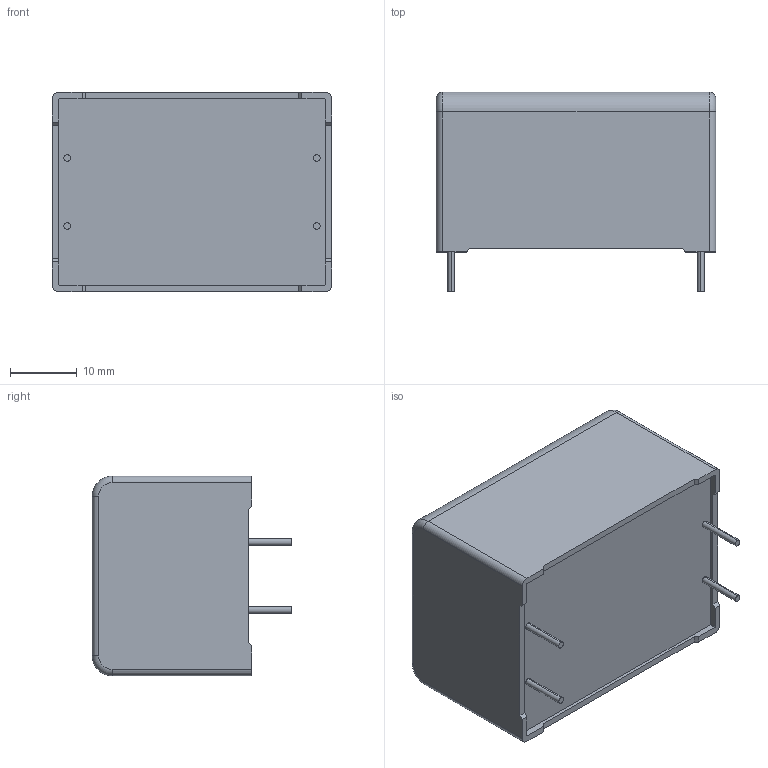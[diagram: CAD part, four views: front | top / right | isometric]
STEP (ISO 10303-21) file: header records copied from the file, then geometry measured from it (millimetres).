
FILE_DESCRIPTION (( 'STEP AP203' ), '1' );
FILE_NAME ('DC_Link_30x24x42_4pins10.2.step', '2017-04-03T16:00:03', ( 'work' ), ( 'Hewlett-Packard Company' ), 'SwSTEP 2.0', 'SolidWorks 2017', '' );
FILE_SCHEMA (( 'CONFIG_CONTROL_DESIGN' ));
Length unit declared in the file: millimetre
Products named in the file (1): DC_Link_30x24x42_4pins10.2
Bounding box: 42 x 30 x 30 mm (x, y, z)
Volume: 28894.6 mm3; surface area: 5913.6 mm2
Topology: 1 solids, 1 shells, 122 faces, 319 edges, 210 vertices
Faces by surface type: plane 82, cylinder 20, bspline 16, torus 4
Entity records: 4492 total; most frequent: CARTESIAN_POINT 1476, ORIENTED_EDGE 638, DIRECTION 545, EDGE_CURVE 319, VECTOR 243, LINE 243, VERTEX_POINT 210, AXIS2_PLACEMENT_3D 151
